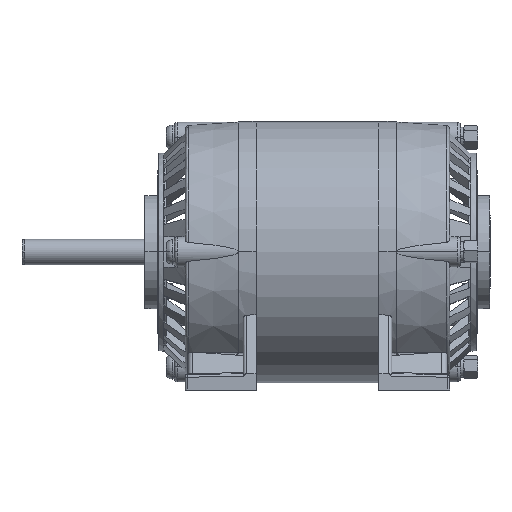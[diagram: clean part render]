
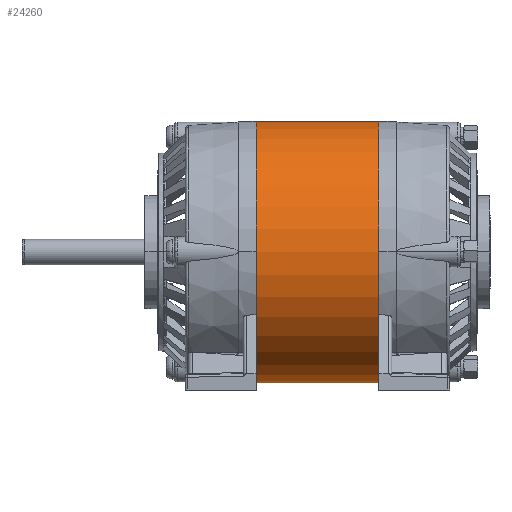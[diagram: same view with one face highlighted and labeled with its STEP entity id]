
A CAD part, top view. The second image highlights one B-rep face of the part: STEP entity #24260.
In plain terms, the highlighted cylindrical face has radius 40.5 mm (diameter 81 mm), a partial arc.
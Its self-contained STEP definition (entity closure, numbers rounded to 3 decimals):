
#161 = DIRECTION ( 'NONE',  ( 1., 0., 0. ) ) ;
#798 = EDGE_LOOP ( 'NONE', ( #36400, #816, #9028, #37062 ) ) ;
#816 = ORIENTED_EDGE ( 'NONE', *, *, #13676, .T. ) ;
#2075 = DIRECTION ( 'NONE',  ( 1., 0., 0. ) ) ;
#2767 = DIRECTION ( 'NONE',  ( 1., 0., 0. ) ) ;
#2792 = CIRCLE ( 'NONE', #24003, 40.5 ) ;
#3021 = AXIS2_PLACEMENT_3D ( 'NONE', #20525, #2075, #17711 ) ;
#3503 = CARTESIAN_POINT ( 'NONE',  ( -14.361, -2.092, -38.88 ) ) ;
#3986 = CARTESIAN_POINT ( 'NONE',  ( -14.361, -42.592, -38.88 ) ) ;
#6662 = DIRECTION ( 'NONE',  ( 1., 0., 0. ) ) ;
#7400 = AXIS2_PLACEMENT_3D ( 'NONE', #22508, #6662, #14870 ) ;
#9028 = ORIENTED_EDGE ( 'NONE', *, *, #33702, .F. ) ;
#11926 = DIRECTION ( 'NONE',  ( 1., 0., 0. ) ) ;
#13676 = EDGE_CURVE ( 'NONE', #23991, #35243, #42881, .T. ) ;
#13999 = VERTEX_POINT ( 'NONE', #37969 ) ;
#14870 = DIRECTION ( 'NONE',  ( 0., 1., 0. ) ) ;
#16036 = DIRECTION ( 'NONE',  ( 0., 1., 0. ) ) ;
#17711 = DIRECTION ( 'NONE',  ( 0., 1., 0. ) ) ;
#17720 = CIRCLE ( 'NONE', #3021, 40.5 ) ;
#19326 = VERTEX_POINT ( 'NONE', #25973 ) ;
#20525 = CARTESIAN_POINT ( 'NONE',  ( 23.639, -2.092, -38.88 ) ) ;
#22227 = VECTOR ( 'NONE', #2767, 1000. ) ;
#22508 = CARTESIAN_POINT ( 'NONE',  ( -14.361, -2.092, -38.88 ) ) ;
#22972 = LINE ( 'NONE', #49594, #22227 ) ;
#23029 = CYLINDRICAL_SURFACE ( 'NONE', #7400, 40.5 ) ;
#23572 = VECTOR ( 'NONE', #11926, 1000. ) ;
#23991 = VERTEX_POINT ( 'NONE', #40533 ) ;
#24003 = AXIS2_PLACEMENT_3D ( 'NONE', #3503, #161, #16036 ) ;
#24260 = ADVANCED_FACE ( 'NONE', ( #42504 ), #23029, .T. ) ;
#25973 = CARTESIAN_POINT ( 'NONE',  ( 23.639, 38.408, -38.88 ) ) ;
#29288 = EDGE_CURVE ( 'NONE', #13999, #19326, #22972, .T. ) ;
#30319 = CARTESIAN_POINT ( 'NONE',  ( 23.639, -42.592, -38.88 ) ) ;
#33702 = EDGE_CURVE ( 'NONE', #19326, #35243, #17720, .T. ) ;
#35243 = VERTEX_POINT ( 'NONE', #30319 ) ;
#36400 = ORIENTED_EDGE ( 'NONE', *, *, #39267, .T. ) ;
#37062 = ORIENTED_EDGE ( 'NONE', *, *, #29288, .F. ) ;
#37969 = CARTESIAN_POINT ( 'NONE',  ( -14.361, 38.408, -38.88 ) ) ;
#39267 = EDGE_CURVE ( 'NONE', #13999, #23991, #2792, .T. ) ;
#40533 = CARTESIAN_POINT ( 'NONE',  ( -14.361, -42.592, -38.88 ) ) ;
#42504 = FACE_OUTER_BOUND ( 'NONE', #798, .T. ) ;
#42881 = LINE ( 'NONE', #3986, #23572 ) ;
#49594 = CARTESIAN_POINT ( 'NONE',  ( -14.361, 38.408, -38.88 ) ) ;
